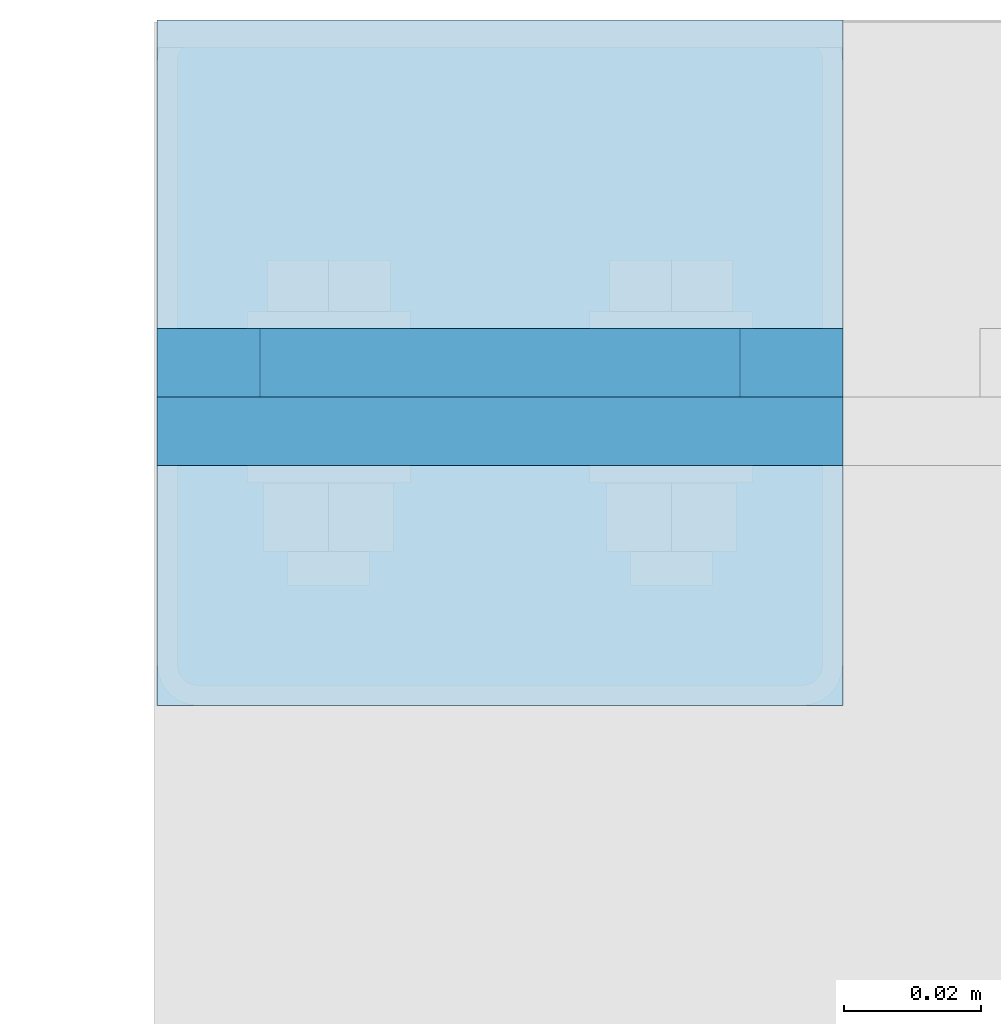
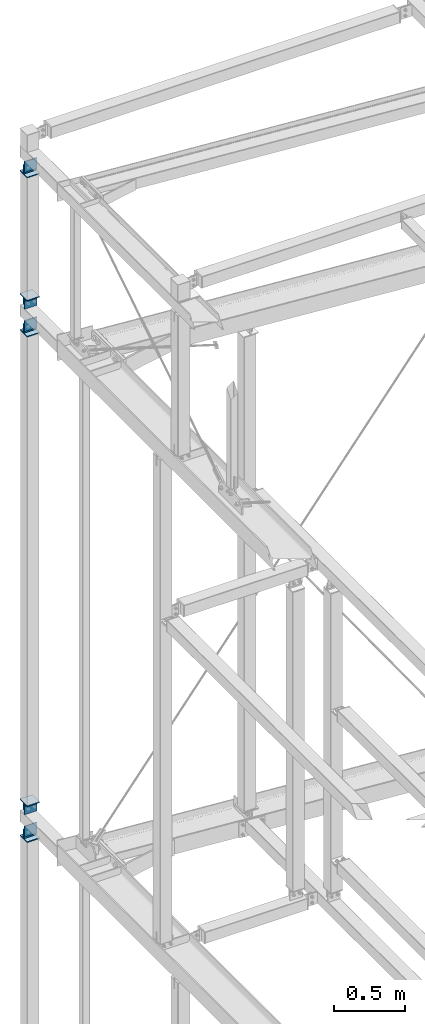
# One storey, part 150 of 271: 15 plates, 6 elements without a shape of their own.
"""IFC2X3 building model written with IfcOpenShell, lengths in millimetres."""

from ifc_helpers import new_model, si_unit, frame, origin_with_axes, place, context, subcontext, project, spatial, polyline, outline, extrude, material, type_object, element, aggregate, save


model = new_model("IFC2X3")

# Units and contexts
model_context = context("Model", 3, precision=1e-05, world=origin_with_axes())
body_context = subcontext(model_context, "Body", "Model", "MODEL_VIEW")
ifc_project = project(units=[si_unit("LENGTHUNIT", "METRE", prefix="MILLI"), si_unit("AREAUNIT", "SQUARE_METRE"), si_unit("VOLUMEUNIT", "CUBIC_METRE"), si_unit("MASSUNIT", "GRAM", prefix="KILO"), si_unit("TIMEUNIT", "SECOND"), si_unit("PLANEANGLEUNIT", "RADIAN"), si_unit("SOLIDANGLEUNIT", "STERADIAN"), si_unit("THERMODYNAMICTEMPERATUREUNIT", "DEGREE_CELSIUS"), si_unit("LUMINOUSINTENSITYUNIT", "LUMEN")], contexts=[model_context])

# Site, building, storey
site_placement = place(None, origin_with_axes())
site = spatial("IfcSite", under=ifc_project, at=site_placement, Name="Undefined", CompositionType="ELEMENT")
building_placement = place(site_placement, origin_with_axes())
building = spatial("IfcBuilding", under=site, at=building_placement, Name="Undefined", CompositionType="ELEMENT")
storey_placement = place(building_placement, origin_with_axes())
storey = spatial("IfcBuildingStorey", under=building, at=storey_placement, Name="Undefined", CompositionType="ELEMENT", Elevation=0.0)

# Assembly, plate
assembly_1_placement = place(storey_placement, origin_with_axes())
assembly_1 = element("IfcElementAssembly", 1, at=assembly_1_placement, inside=storey, AssemblyPlace="NOTDEFINED", PredefinedType="RIGID_FRAME")
ifc_material = material(Name="STEEL/S355JR")
plate_type_1 = type_object("IfcPlateType", Name="BL8*100", PredefinedType="NOTDEFINED")
plate_1_placement = place(assembly_1_placement, frame((-11.6243129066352, 4859.32498425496, 14160.3499999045), z_axis=(0.0, 0.0, 1.0), x_axis=(1.0, 0.0, 0.0)))
plate_1 = element("IfcPlate", 2, at=plate_1_placement, type_object=plate_type_1, material=ifc_material, Name="BLACHA", ObjectType="BL8*100", context=body_context, shape_type="SweptSolid", body=[
    extrude(outline(polyline([(0.0, 0.0), (100.0, 0.0), (100.0, 100.0), (1.59161572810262e-12, 100.0), (0.0, 0.0)])), frame((0.0, 0.0, -4.0), z_axis=(0.0, 0.0, 1.0), x_axis=(1.0, 0.0, 0.0)), (0.0, 0.0, 1.0), 8.0),
])

# Assembly, plates
assembly_2_placement = place(storey_placement, origin_with_axes())
assembly_2 = element("IfcElementAssembly", 3, at=assembly_2_placement, inside=storey, AssemblyPlace="NOTDEFINED", PredefinedType="RIGID_FRAME")
plate_2_placement = place(assembly_2_placement, frame((88.3756870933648, 4859.32498425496, 14468.3499999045), z_axis=(0.0, 0.0, -1.0), x_axis=(-1.0, 0.0, 1.38777878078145e-17)))
plate_2 = element("IfcPlate", 4, at=plate_2_placement, type_object=plate_type_1, material=ifc_material, Name="BLACHA", ObjectType="BL8*100", context=body_context, shape_type="SweptSolid", body=[
    extrude(outline(polyline([(0.0, 0.0), (100.0, 0.0), (100.0, 100.0), (1.59161572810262e-12, 100.0), (0.0, 0.0)])), frame((0.0, 0.0, -4.0), z_axis=(0.0, 0.0, 1.0), x_axis=(1.0, 0.0, 0.0)), (0.0, 0.0, 1.0), 8.0),
])
plate_3_placement = place(assembly_2_placement, frame((-11.6243129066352, 4859.32498425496, 18480.3499999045), z_axis=(0.0, 0.0, 1.0), x_axis=(1.0, 0.0, 0.0)))
plate_3 = element("IfcPlate", 5, at=plate_3_placement, type_object=plate_type_1, material=ifc_material, Name="BLACHA", ObjectType="BL8*100", context=body_context, shape_type="SweptSolid", body=[
    extrude(outline(polyline([(0.0, 0.0), (100.0, 0.0), (100.0, 100.0), (1.59161572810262e-12, 100.0), (0.0, 0.0)])), frame((0.0, 0.0, -4.0), z_axis=(0.0, 0.0, 1.0), x_axis=(1.0, 0.0, 0.0)), (0.0, 0.0, 1.0), 8.0),
])

assembly_3_placement = place(storey_placement, origin_with_axes())
assembly_3 = element("IfcElementAssembly", 6, at=assembly_3_placement, inside=storey, AssemblyPlace="NOTDEFINED", PredefinedType="RIGID_FRAME")
plate_4_placement = place(assembly_3_placement, frame((88.3756870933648, 4859.32498425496, 18788.3499999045), z_axis=(0.0, 0.0, -1.0), x_axis=(-1.0, 0.0, 1.38777878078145e-17)))
plate_4 = element("IfcPlate", 7, at=plate_4_placement, type_object=plate_type_1, material=ifc_material, Name="BLACHA", ObjectType="BL8*100", context=body_context, shape_type="SweptSolid", body=[
    extrude(outline(polyline([(0.0, 0.0), (100.0, 0.0), (100.0, 100.0), (1.59161572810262e-12, 100.0), (0.0, 0.0)])), frame((0.0, 0.0, -4.0), z_axis=(0.0, 0.0, 1.0), x_axis=(1.0, 0.0, 0.0)), (0.0, 0.0, 1.0), 8.0),
])
plate_5_placement = place(assembly_3_placement, frame((-11.6243129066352, 4859.32498425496, 19840.3499999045), z_axis=(0.0, 0.0, 1.0), x_axis=(1.0, 0.0, 0.0)))
plate_5 = element("IfcPlate", 8, at=plate_5_placement, type_object=plate_type_1, material=ifc_material, Name="BLACHA", ObjectType="BL8*100", context=body_context, shape_type="SweptSolid", body=[
    extrude(outline(polyline([(0.0, 0.0), (100.0, 0.0), (100.0, 100.0), (1.59161572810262e-12, 100.0), (0.0, 0.0)])), frame((0.0, 0.0, -4.0), z_axis=(0.0, 0.0, 1.0), x_axis=(1.0, 0.0, 0.0)), (0.0, 0.0, 1.0), 8.0),
])

# Plate
plate_type_2 = type_object("IfcPlateType", Name="BL10*70", PredefinedType="NOTDEFINED")
plate_6_placement = place(assembly_2_placement, frame((88.3756870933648, 4909.32498425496, 14409.3499999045), z_axis=(0.0, 1.0, 0.0), x_axis=(-0.707106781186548, 0.0, -0.707106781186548)))
plate_6 = element("IfcPlate", 9, at=plate_6_placement, type_object=plate_type_2, material=ifc_material, Name="BLACHA", ObjectType="BL10*70", context=body_context, shape_type="SweptSolid", body=[
    extrude(outline(polyline([(0.0, 0.0), (21.2132034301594, 1.09139364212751e-11), (70.7106781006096, 49.4974746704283), (70.7106781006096, 70.7106781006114), (31.8198051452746, 109.601554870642), (-38.890872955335, 38.8908729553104), (0.0, 0.0)])), frame((0.0, 0.0, -5.0), z_axis=(0.0, 0.0, 1.0), x_axis=(1.0, 0.0, 0.0)), (0.0, 0.0, 1.0), 10.0),
])

# Assembly, plate
assembly_4_placement = place(storey_placement, origin_with_axes())
assembly_4 = element("IfcElementAssembly", 10, at=assembly_4_placement, inside=storey, AssemblyPlace="NOTDEFINED", PredefinedType="RIGID_FRAME")
plate_7_placement = place(assembly_4_placement, frame((88.3756870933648, 4899.32498425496, 14374.3499999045), z_axis=(0.0, 1.0, 0.0), x_axis=(-1.0, 0.0, 1.38777878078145e-17)))
plate_7 = element("IfcPlate", 11, at=plate_7_placement, type_object=plate_type_2, material=ifc_material, Name="BLACHA", ObjectType="BL10*70", context=body_context, shape_type="SweptSolid", body=[
    extrude(outline(polyline([(0.0, 0.0), (100.0, 0.0), (100.0, 70.0), (0.0, 70.0), (0.0, 0.0)])), frame((0.0, 0.0, -5.0), z_axis=(0.0, 0.0, 1.0), x_axis=(1.0, 0.0, 0.0)), (0.0, 0.0, 1.0), 10.0),
])

# Plate
plate_8_placement = place(assembly_3_placement, frame((88.3756870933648, 4909.32498425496, 18729.3499999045), z_axis=(0.0, 1.0, 0.0), x_axis=(-0.707106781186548, 0.0, -0.707106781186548)))
plate_8 = element("IfcPlate", 12, at=plate_8_placement, type_object=plate_type_2, material=ifc_material, Name="BLACHA", ObjectType="BL10*70", context=body_context, shape_type="SweptSolid", body=[
    extrude(outline(polyline([(0.0, 0.0), (21.2132034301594, 1.09139364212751e-11), (70.7106781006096, 49.4974746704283), (70.7106781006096, 70.7106781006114), (31.8198051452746, 109.601554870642), (-38.890872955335, 38.8908729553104), (0.0, 0.0)])), frame((0.0, 0.0, -5.0), z_axis=(0.0, 0.0, 1.0), x_axis=(1.0, 0.0, 0.0)), (0.0, 0.0, 1.0), 10.0),
])

# Assembly, plate
assembly_5_placement = place(storey_placement, origin_with_axes())
assembly_5 = element("IfcElementAssembly", 13, at=assembly_5_placement, inside=storey, AssemblyPlace="NOTDEFINED", PredefinedType="RIGID_FRAME")
plate_9_placement = place(assembly_5_placement, frame((88.3756870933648, 4899.32498425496, 18694.3499999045), z_axis=(0.0, 1.0, 0.0), x_axis=(-1.0, 0.0, 1.38777878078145e-17)))
plate_9 = element("IfcPlate", 14, at=plate_9_placement, type_object=plate_type_2, material=ifc_material, Name="BLACHA", ObjectType="BL10*70", context=body_context, shape_type="SweptSolid", body=[
    extrude(outline(polyline([(0.0, 0.0), (100.0, 0.0), (100.0, 70.0), (0.0, 70.0), (0.0, 0.0)])), frame((0.0, 0.0, -5.0), z_axis=(0.0, 0.0, 1.0), x_axis=(1.0, 0.0, 0.0)), (0.0, 0.0, 1.0), 10.0),
])

# Plate
plate_type_3 = type_object("IfcPlateType", Name="BL10*90", PredefinedType="NOTDEFINED")
plate_10_placement = place(assembly_1_placement, frame((-11.6243129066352, 4909.32498425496, 14239.3499999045), z_axis=(0.0, 1.0, 0.0), x_axis=(0.707106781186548, 0.0, 0.707106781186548)))
plate_10 = element("IfcPlate", 15, at=plate_10_placement, type_object=plate_type_3, material=ifc_material, Name="BLACHA", ObjectType="BL10*90", context=body_context, shape_type="SweptSolid", body=[
    extrude(outline(polyline([(0.0, 0.0), (21.2132034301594, 1.09139364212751e-11), (70.7106781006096, 49.4974746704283), (70.7106781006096, 70.7106781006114), (17.6776695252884, 123.743690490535), (-53.033008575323, 53.0330085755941), (0.0, 0.0)])), frame((0.0, 0.0, -5.0), z_axis=(0.0, 0.0, 1.0), x_axis=(1.0, 0.0, 0.0)), (0.0, 0.0, 1.0), 10.0),
])

aggregate(assembly_1, [plate_1, plate_10])

plate_11_placement = place(assembly_4_placement, frame((-11.6243129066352, 4899.32498425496, 14274.3499999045), z_axis=(0.0, 1.0, 0.0), x_axis=(1.0, 0.0, 0.0)))
plate_11 = element("IfcPlate", 16, at=plate_11_placement, type_object=plate_type_3, material=ifc_material, Name="BLACHA", ObjectType="BL10*90", context=body_context, shape_type="SweptSolid", body=[
    extrude(outline(polyline([(0.0, 0.0), (100.0, 0.0), (100.0, 90.0), (0.0, 90.0), (0.0, 0.0)])), frame((0.0, 0.0, -5.0), z_axis=(0.0, 0.0, 1.0), x_axis=(1.0, 0.0, 0.0)), (0.0, 0.0, 1.0), 10.0),
])

aggregate(assembly_4, [plate_11, plate_7])

plate_12_placement = place(assembly_2_placement, frame((-11.6243129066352, 4909.32498425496, 18559.3499999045), z_axis=(0.0, 1.0, 0.0), x_axis=(0.707106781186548, 0.0, 0.707106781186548)))
plate_12 = element("IfcPlate", 17, at=plate_12_placement, type_object=plate_type_3, material=ifc_material, Name="BLACHA", ObjectType="BL10*90", context=body_context, shape_type="SweptSolid", body=[
    extrude(outline(polyline([(0.0, 0.0), (21.2132034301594, 1.09139364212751e-11), (70.7106781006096, 49.4974746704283), (70.7106781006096, 70.7106781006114), (17.6776695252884, 123.743690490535), (-53.033008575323, 53.0330085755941), (0.0, 0.0)])), frame((0.0, 0.0, -5.0), z_axis=(0.0, 0.0, 1.0), x_axis=(1.0, 0.0, 0.0)), (0.0, 0.0, 1.0), 10.0),
])

aggregate(assembly_2, [plate_2, plate_6, plate_3, plate_12])

plate_13_placement = place(assembly_5_placement, frame((-11.6243129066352, 4899.32498425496, 18594.3499999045), z_axis=(0.0, 1.0, 0.0), x_axis=(1.0, 0.0, 0.0)))
plate_13 = element("IfcPlate", 18, at=plate_13_placement, type_object=plate_type_3, material=ifc_material, Name="BLACHA", ObjectType="BL10*90", context=body_context, shape_type="SweptSolid", body=[
    extrude(outline(polyline([(0.0, 0.0), (100.0, 0.0), (100.0, 90.0), (0.0, 90.0), (0.0, 0.0)])), frame((0.0, 0.0, -5.0), z_axis=(0.0, 0.0, 1.0), x_axis=(1.0, 0.0, 0.0)), (0.0, 0.0, 1.0), 10.0),
])

aggregate(assembly_5, [plate_13, plate_9])

plate_14_placement = place(assembly_3_placement, frame((-11.6243129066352, 4909.32498425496, 19919.3499999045), z_axis=(0.0, 1.0, 0.0), x_axis=(0.707106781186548, 0.0, 0.707106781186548)))
plate_14 = element("IfcPlate", 19, at=plate_14_placement, type_object=plate_type_3, material=ifc_material, Name="BLACHA", ObjectType="BL10*90", context=body_context, shape_type="SweptSolid", body=[
    extrude(outline(polyline([(0.0, 0.0), (21.2132034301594, 1.09139364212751e-11), (70.7106781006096, 49.4974746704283), (70.7106781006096, 70.7106781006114), (17.6776695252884, 123.743690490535), (-53.033008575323, 53.0330085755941), (0.0, 0.0)])), frame((0.0, 0.0, -5.0), z_axis=(0.0, 0.0, 1.0), x_axis=(1.0, 0.0, 0.0)), (0.0, 0.0, 1.0), 10.0),
])

aggregate(assembly_3, [plate_4, plate_8, plate_5, plate_14])

# Assembly, plate
assembly_6_placement = place(storey_placement, origin_with_axes())
assembly_6 = element("IfcElementAssembly", 20, at=assembly_6_placement, inside=storey, AssemblyPlace="NOTDEFINED", PredefinedType="RIGID_FRAME")
plate_15_placement = place(assembly_6_placement, frame((-11.6243129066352, 4899.32498425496, 19954.3499999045), z_axis=(0.0, 1.0, 0.0), x_axis=(1.0, 0.0, 0.0)))
plate_15 = element("IfcPlate", 21, at=plate_15_placement, type_object=plate_type_3, material=ifc_material, Name="BLACHA", ObjectType="BL10*90", context=body_context, shape_type="SweptSolid", body=[
    extrude(outline(polyline([(0.0, 0.0), (100.0, 0.0), (100.0, 90.0), (0.0, 90.0), (0.0, 0.0)])), frame((0.0, 0.0, -5.0), z_axis=(0.0, 0.0, 1.0), x_axis=(1.0, 0.0, 0.0)), (0.0, 0.0, 1.0), 10.0),
])
aggregate(assembly_6, [plate_15])

save(model, "model.ifc")
